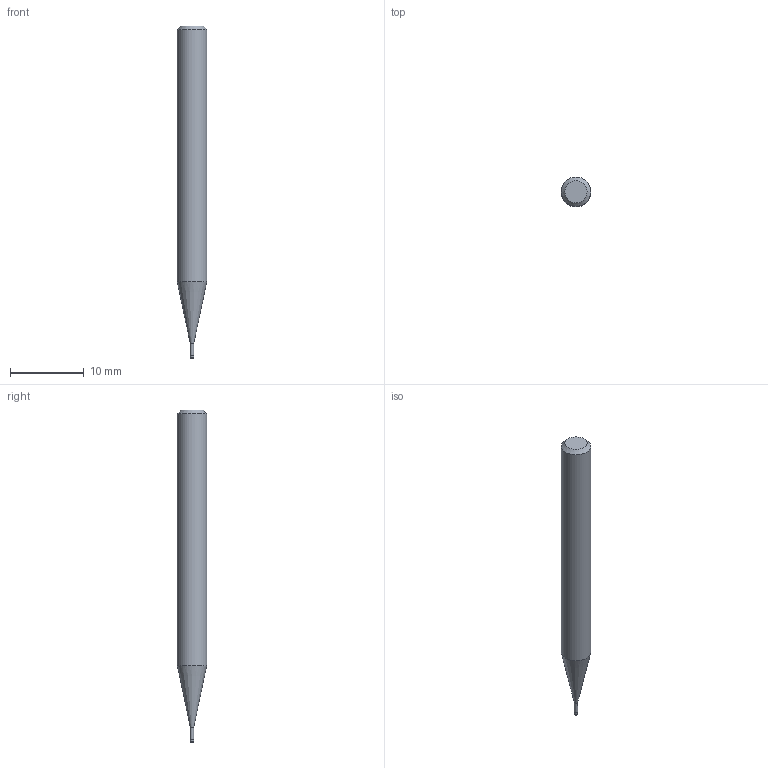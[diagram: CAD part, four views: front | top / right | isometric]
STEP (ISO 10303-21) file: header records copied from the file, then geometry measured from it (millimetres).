
FILE_DESCRIPTION((''),'2;1');
FILE_NAME('C:\Users\nsx150\AppData\Local\Temp\Mastercam 2021\17T8Q8S9EB\TEMP.step','2021-04-21T14:30:56',(''),(''),'STEP Write','Mastercam 2021 ... CNC Software, Inc.','');
FILE_SCHEMA(('AUTOMOTIVE_DESIGN'));
Length unit declared in the file: millimetre
Products named in the file (1): None
Bounding box: 4 x 4 x 45 mm (x, y, z)
Volume: 474 mm3; surface area: 507.4 mm2
Topology: 2 solids, 2 shells, 10 faces, 14 edges, 8 vertices
Faces by surface type: plane 4, cylinder 3, cone 2, torus 1
Full cylindrical faces by diameter (mm): 0.46 x1, 0.5 x1, 4 x1
Entity records: 232 total; most frequent: DIRECTION 40, CARTESIAN_POINT 28, AXIS2_PLACEMENT_3D 20, ORIENTED_EDGE 16, EDGE_LOOP 16, STYLED_ITEM 13, ADVANCED_FACE 10, FACE_BOUND 10
